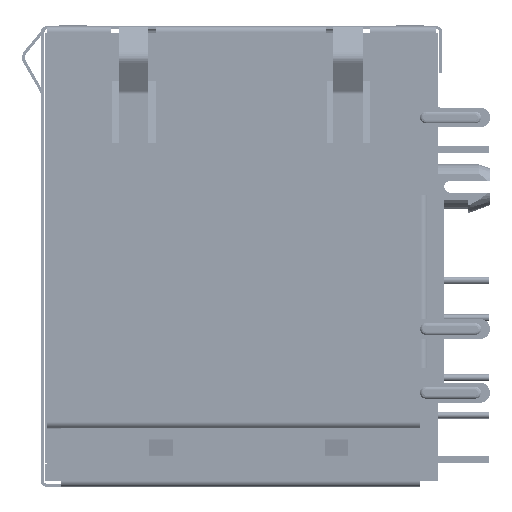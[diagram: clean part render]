
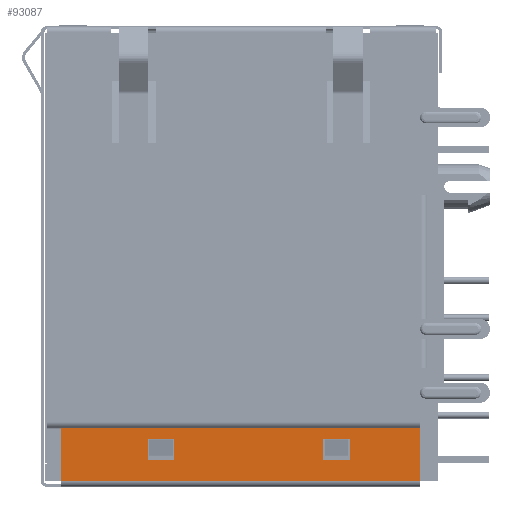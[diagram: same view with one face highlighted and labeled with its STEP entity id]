
A CAD part, left-side view. The second image highlights one B-rep face of the part: STEP entity #93087.
In plain terms, the highlighted planar face has unit normal (-1, 0, 0).
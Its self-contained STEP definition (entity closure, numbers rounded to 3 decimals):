
#77854=DIRECTION('',(0.,0.,-1.));
#77855=VECTOR('',#77854,24.335);
#77856=CARTESIAN_POINT('',(-32.955,-30.63,12.11));
#77857=LINE('',#77856,#77855);
#77872=DIRECTION('',(0.,1.,0.));
#77873=VECTOR('',#77872,3.6);
#77874=CARTESIAN_POINT('',(-32.955,-30.63,-12.225));
#77875=LINE('',#77874,#77873);
#77876=DIRECTION('',(0.,0.,1.));
#77877=VECTOR('',#77876,24.335);
#77878=CARTESIAN_POINT('',(-32.955,-27.03,-12.225));
#77879=LINE('',#77878,#77877);
#77880=DIRECTION('',(0.,-1.,0.));
#77881=VECTOR('',#77880,3.6);
#77882=CARTESIAN_POINT('',(-32.955,-27.03,12.11));
#77883=LINE('',#77882,#77881);
#77884=DIRECTION('',(0.,-1.,0.));
#77885=VECTOR('',#77884,1.45);
#77886=CARTESIAN_POINT('',(-32.955,-27.8,5.555));
#77887=LINE('',#77886,#77885);
#77888=DIRECTION('',(0.,0.,1.));
#77889=VECTOR('',#77888,1.8);
#77890=CARTESIAN_POINT('',(-32.955,-29.25,5.555));
#77891=LINE('',#77890,#77889);
#77892=DIRECTION('',(0.,1.,0.));
#77893=VECTOR('',#77892,1.45);
#77894=CARTESIAN_POINT('',(-32.955,-29.25,7.355));
#77895=LINE('',#77894,#77893);
#77896=DIRECTION('',(0.,0.,-1.));
#77897=VECTOR('',#77896,1.8);
#77898=CARTESIAN_POINT('',(-32.955,-27.8,7.355));
#77899=LINE('',#77898,#77897);
#77900=DIRECTION('',(0.,-1.,0.));
#77901=VECTOR('',#77900,1.45);
#77902=CARTESIAN_POINT('',(-32.955,-27.8,-6.345));
#77903=LINE('',#77902,#77901);
#77904=DIRECTION('',(0.,0.,1.));
#77905=VECTOR('',#77904,1.8);
#77906=CARTESIAN_POINT('',(-32.955,-29.25,-6.345));
#77907=LINE('',#77906,#77905);
#77908=DIRECTION('',(0.,1.,0.));
#77909=VECTOR('',#77908,1.45);
#77910=CARTESIAN_POINT('',(-32.955,-29.25,-4.545));
#77911=LINE('',#77910,#77909);
#77912=DIRECTION('',(0.,0.,-1.));
#77913=VECTOR('',#77912,1.8);
#77914=CARTESIAN_POINT('',(-32.955,-27.8,-4.545));
#77915=LINE('',#77914,#77913);
#87230=CARTESIAN_POINT('',(-32.955,-30.63,-12.225));
#87231=CARTESIAN_POINT('',(-32.955,-27.03,-12.225));
#87232=VERTEX_POINT('',#87230);
#87233=VERTEX_POINT('',#87231);
#87234=CARTESIAN_POINT('',(-32.955,-27.03,12.11));
#87235=VERTEX_POINT('',#87234);
#87236=CARTESIAN_POINT('',(-32.955,-30.63,12.11));
#87237=VERTEX_POINT('',#87236);
#87394=CARTESIAN_POINT('',(-32.955,-27.8,-6.345));
#87395=CARTESIAN_POINT('',(-32.955,-29.25,-6.345));
#87396=VERTEX_POINT('',#87394);
#87397=VERTEX_POINT('',#87395);
#87398=CARTESIAN_POINT('',(-32.955,-29.25,-4.545));
#87399=VERTEX_POINT('',#87398);
#87400=CARTESIAN_POINT('',(-32.955,-27.8,-4.545));
#87401=VERTEX_POINT('',#87400);
#87402=CARTESIAN_POINT('',(-32.955,-27.8,5.555));
#87403=CARTESIAN_POINT('',(-32.955,-29.25,5.555));
#87404=VERTEX_POINT('',#87402);
#87405=VERTEX_POINT('',#87403);
#87406=CARTESIAN_POINT('',(-32.955,-29.25,7.355));
#87407=VERTEX_POINT('',#87406);
#87408=CARTESIAN_POINT('',(-32.955,-27.8,7.355));
#87409=VERTEX_POINT('',#87408);
#93053=CARTESIAN_POINT('',(-32.955,-31.03,-13.225));
#93054=DIRECTION('',(1.,0.,0.));
#93055=DIRECTION('',(0.,0.,-1.));
#93056=AXIS2_PLACEMENT_3D('',#93053,#93054,#93055);
#93057=PLANE('',#93056);
#93059=ORIENTED_EDGE('',*,*,#93058,.T.);
#93061=ORIENTED_EDGE('',*,*,#93060,.T.);
#93063=ORIENTED_EDGE('',*,*,#93062,.T.);
#93064=ORIENTED_EDGE('',*,*,#93044,.T.);
#93065=EDGE_LOOP('',(#93059,#93061,#93063,#93064));
#93066=FACE_OUTER_BOUND('',#93065,.F.);
#93068=ORIENTED_EDGE('',*,*,#93067,.T.);
#93070=ORIENTED_EDGE('',*,*,#93069,.T.);
#93072=ORIENTED_EDGE('',*,*,#93071,.T.);
#93074=ORIENTED_EDGE('',*,*,#93073,.T.);
#93075=EDGE_LOOP('',(#93068,#93070,#93072,#93074));
#93076=FACE_BOUND('',#93075,.F.);
#93078=ORIENTED_EDGE('',*,*,#93077,.T.);
#93080=ORIENTED_EDGE('',*,*,#93079,.T.);
#93082=ORIENTED_EDGE('',*,*,#93081,.T.);
#93084=ORIENTED_EDGE('',*,*,#93083,.T.);
#93085=EDGE_LOOP('',(#93078,#93080,#93082,#93084));
#93086=FACE_BOUND('',#93085,.F.);
#93087=ADVANCED_FACE('',(#93066,#93076,#93086),#93057,.F.);
#93044=EDGE_CURVE('',#87237,#87232,#77857,.T.);
#93058=EDGE_CURVE('',#87232,#87233,#77875,.T.);
#93060=EDGE_CURVE('',#87233,#87235,#77879,.T.);
#93062=EDGE_CURVE('',#87235,#87237,#77883,.T.);
#93067=EDGE_CURVE('',#87404,#87405,#77887,.T.);
#93069=EDGE_CURVE('',#87405,#87407,#77891,.T.);
#93071=EDGE_CURVE('',#87407,#87409,#77895,.T.);
#93073=EDGE_CURVE('',#87409,#87404,#77899,.T.);
#93077=EDGE_CURVE('',#87396,#87397,#77903,.T.);
#93079=EDGE_CURVE('',#87397,#87399,#77907,.T.);
#93081=EDGE_CURVE('',#87399,#87401,#77911,.T.);
#93083=EDGE_CURVE('',#87401,#87396,#77915,.T.);
